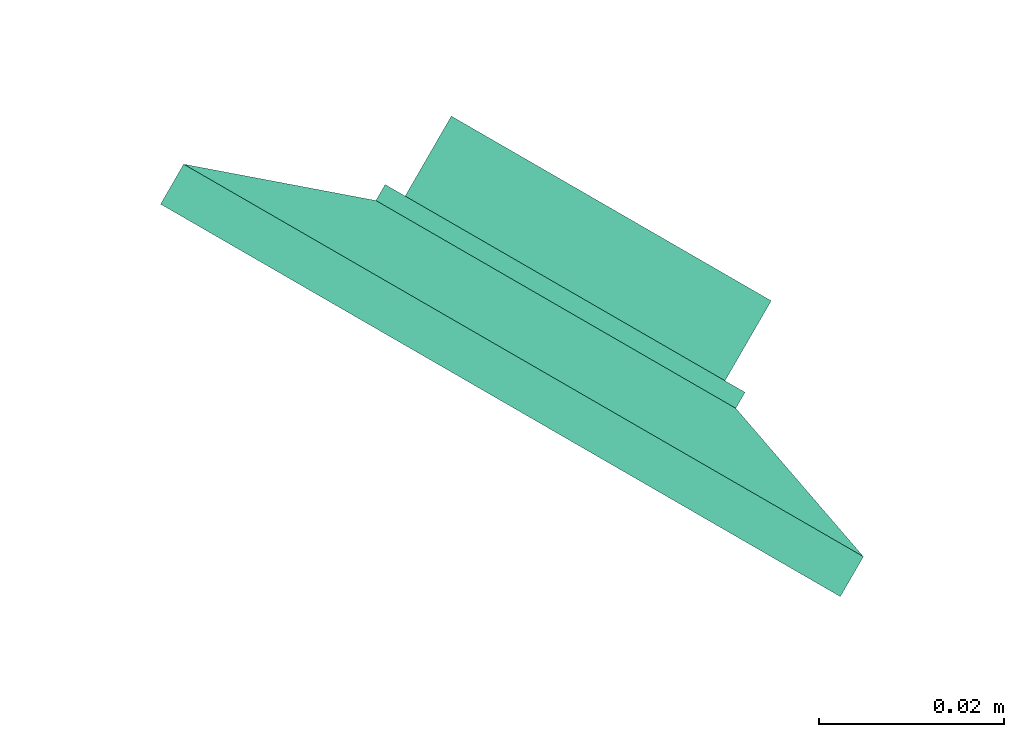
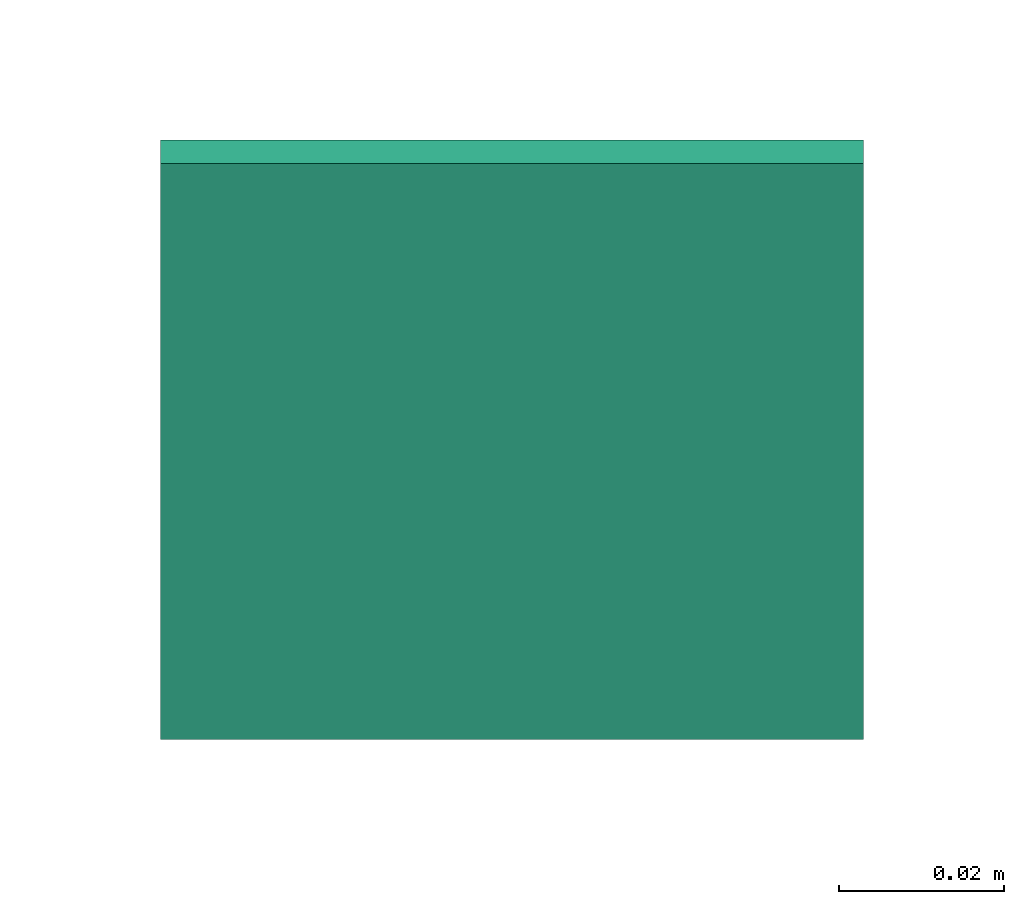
# One storey, part 5 of 24: 1 flow controller.
"""IFC2X3 building model written with IfcOpenShell, lengths in millimetres."""

from ifc_helpers import new_model, entity, si_unit, converted_unit, derived_unit, direction, frame, origin_with_axes, place, context, subcontext, project, spatial, open_shell, surface_model, source, transform, mapped, type_object, element, save


model = new_model("IFC2X3")

# Units and contexts
model_context = context("Model", 3, precision=0.01, world=frame((0.0, 4.29681676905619e-09, 0.0)), true_north=direction((4.01073788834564e-13, 1.0)))
plan_context = context("Plan", 3, precision=0.01, world=frame((0.0, 4.29681676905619e-09, 0.0)), true_north=direction((4.01073788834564e-13, 1.0)))
body_context = subcontext(model_context, "Body", "Model", "MODEL_VIEW")
ifc_project = project(units=[converted_unit("PLANEANGLEUNIT", "DEGREE", entity("IfcPositiveLengthMeasure", 0.0174532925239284), si_unit("PLANEANGLEUNIT", "RADIAN"), dimensions=[0, 0, 0, 0, 0, 0, 0]), si_unit("AREAUNIT", "SQUARE_METRE"), si_unit("LENGTHUNIT", "METRE", prefix="MILLI"), si_unit("MASSUNIT", "GRAM", prefix="KILO"), si_unit("POWERUNIT", "WATT"), si_unit("PRESSUREUNIT", "PASCAL"), si_unit("FORCEUNIT", "NEWTON", prefix="KILO"), si_unit("ELECTRICVOLTAGEUNIT", "VOLT"), si_unit("ELECTRICCURRENTUNIT", "AMPERE"), si_unit("THERMODYNAMICTEMPERATUREUNIT", "DEGREE_CELSIUS"), si_unit("TIMEUNIT", "SECOND"), si_unit("VOLUMEUNIT", "CUBIC_METRE"), derived_unit("LINEARVELOCITYUNIT", [(si_unit("LENGTHUNIT", "METRE"), 1), (si_unit("TIMEUNIT", "SECOND"), -1)]), derived_unit("VOLUMETRICFLOWRATEUNIT", [(si_unit("VOLUMEUNIT", "CUBIC_METRE"), 1), (si_unit("TIMEUNIT", "SECOND"), -1)]), derived_unit("THERMALTRANSMITTANCEUNIT", [(si_unit("POWERUNIT", "WATT"), 1), (si_unit("THERMODYNAMICTEMPERATUREUNIT", "KELVIN"), -1), (si_unit("AREAUNIT", "SQUARE_METRE"), -1)]), derived_unit("SOUNDPRESSUREUNIT", [(si_unit("PRESSUREUNIT", "PASCAL"), 1)])], contexts=[model_context, plan_context])

# Site, building, storey
site_placement = place(None, frame((0.0, -4.29681676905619e-09, 0.0), z_axis=(0.0, 0.0, 1.0), x_axis=(1.0, 0.0, 0.0)))
site = spatial("IfcSite", under=ifc_project, at=site_placement, Name="ENGM", CompositionType="ELEMENT")
building_placement = place(site_placement, frame((0.0, 4.29681676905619e-09, 0.0), z_axis=(0.0, 0.0, 1.0), x_axis=(1.0, 0.0, 0.0)))
building = spatial("IfcBuilding", under=site, at=building_placement, Name="TH", CompositionType="ELEMENT")
storey_placement = place(building_placement, frame((0.0, 0.0, 210200.0), z_axis=(0.0, 0.0, 1.0), x_axis=(1.0, 0.0, 0.0)))
storey = spatial("IfcBuildingStorey", under=building, at=storey_placement, Name="Nivå F - 0,7 m", CompositionType="ELEMENT", Elevation=210200.0)

# Flow controller
switching_device_type = type_object("IfcSwitchingDeviceType", Name="Light dimmer", PredefinedType="NOTDEFINED")
shared_shape = source(origin_with_axes(), body_context, "Body", "SurfaceModel", [
    surface_model("IfcShellBasedSurfaceModel", [(42.5, 0.0, 42.5), (-42.5, 0.0, 42.5), (-42.5, 0.0, -42.5), (42.5, 0.0, -42.5), (-42.5, 5.0, 42.5), (42.5, 5.0, 42.5), (42.5, 5.0, -42.5), (-42.5, 5.0, -42.5), (-5.17638, 24.0, -19.31852), (-10.0, 24.0, -17.32051), (-14.14214, 24.0, -14.14214), (-17.32051, 24.0, -10.0), (-19.31852, 24.0, -5.17638), (-20.0, 24.0, 0.0), (20.0, 24.0, 0.0), (5.17638, 24.0, -19.31852), (19.31852, 24.0, -5.17638), (10.0, 24.0, -17.32051), (0.0, 24.0, -20.0), (14.14214, 24.0, -14.14214), (17.32051, 24.0, -10.0), (-19.31852, 24.0, 5.17638), (-17.32051, 24.0, 10.0), (-14.14214, 24.0, 14.14214), (-10.0, 24.0, 17.32051), (-5.17638, 24.0, 19.31852), (0.0, 24.0, 20.0), (19.31852, 24.0, 5.17638), (14.14214, 24.0, 14.14214), (17.32051, 24.0, 10.0), (10.0, 24.0, 17.32051), (5.17638, 24.0, 19.31852), (0.0, 14.0, 20.0), (-5.17638, 14.0, 19.31852), (-10.0, 14.0, 17.32051), (10.0, 14.0, 17.32051), (-14.14214, 14.0, 14.14214), (-17.32051, 14.0, 10.0), (-19.31852, 14.0, 5.17638), (19.31852, 14.0, 5.17638), (14.14214, 14.0, 14.14214), (5.17638, 14.0, 19.31852), (17.32051, 14.0, 10.0), (20.0, 14.0, 0.0), (-20.0, 14.0, 0.0), (-19.31852, 14.0, -5.17638), (-17.32051, 14.0, -10.0), (-5.17638, 14.0, -19.31852), (-14.14214, 14.0, -14.14214), (-10.0, 14.0, -17.32051), (5.17638, 14.0, -19.31852), (19.31852, 14.0, -5.17638), (14.14214, 14.0, -14.14214), (17.32051, 14.0, -10.0), (10.0, 14.0, -17.32051), (0.0, 14.0, -20.0), (22.5, 14.0, 22.5), (22.5, 14.0, -22.5), (-22.5, 14.0, -22.5), (-22.5, 14.0, 22.5), (-22.5, 12.0, 22.5), (-22.5, 12.0, -22.5), (22.5, 12.0, -22.5), (22.5, 12.0, 22.5)], [open_shell([[[0, 1, 2]], [[2, 3, 0]], [[4, 5, 6]], [[6, 7, 4]], [[1, 0, 5]], [[5, 4, 1]], [[3, 2, 7]], [[7, 6, 3]], [[8, 9, 10]], [[8, 10, 11]], [[11, 12, 13]], [[11, 13, 8]], [[14, 15, 8]], [[15, 16, 17]], [[15, 18, 8]], [[19, 16, 20]], [[16, 19, 17]], [[15, 14, 16]], [[8, 13, 21]], [[21, 22, 23]], [[21, 23, 24]], [[24, 25, 26]], [[21, 24, 14]], [[27, 24, 26]], [[27, 28, 29]], [[27, 14, 24]], [[27, 30, 28]], [[26, 30, 27]], [[26, 31, 30]], [[21, 14, 8]], [[32, 33, 34]], [[35, 32, 34]], [[36, 37, 38]], [[35, 34, 36]], [[35, 36, 38]], [[35, 39, 40]], [[35, 41, 32]], [[40, 39, 42]], [[39, 35, 43]], [[38, 43, 35]], [[38, 44, 43]], [[44, 45, 46]], [[44, 46, 47]], [[48, 49, 47]], [[48, 47, 46]], [[47, 50, 43]], [[51, 52, 53]], [[52, 51, 54]], [[51, 50, 54]], [[43, 50, 51]], [[47, 55, 50]], [[43, 44, 47]], [[51, 16, 43]], [[53, 20, 51]], [[17, 52, 54]], [[53, 52, 19]], [[15, 54, 50]], [[51, 20, 16]], [[16, 14, 43]], [[15, 17, 54]], [[19, 52, 17]], [[19, 20, 53]], [[18, 15, 50]], [[50, 55, 18]], [[47, 8, 55]], [[49, 9, 47]], [[11, 48, 46]], [[49, 48, 10]], [[12, 46, 45]], [[49, 10, 9]], [[9, 8, 47]], [[13, 12, 45]], [[11, 46, 12]], [[11, 10, 48]], [[44, 13, 45]], [[55, 8, 18]], [[38, 21, 44]], [[37, 22, 38]], [[24, 36, 34]], [[37, 36, 23]], [[25, 34, 33]], [[38, 22, 21]], [[21, 13, 44]], [[25, 24, 34]], [[23, 36, 24]], [[23, 22, 37]], [[26, 25, 33]], [[33, 32, 26]], [[41, 31, 32]], [[35, 30, 41]], [[29, 40, 42]], [[35, 40, 28]], [[27, 42, 39]], [[35, 28, 30]], [[30, 31, 41]], [[14, 27, 39]], [[29, 42, 27]], [[29, 28, 40]], [[43, 14, 39]], [[32, 31, 26]], [[56, 57, 58]], [[58, 59, 56]], [[60, 61, 62]], [[62, 63, 60]], [[58, 57, 62]], [[62, 61, 58]], [[59, 58, 61]], [[61, 60, 59]], [[56, 59, 60]], [[60, 63, 56]], [[57, 56, 63]], [[63, 62, 57]], [[63, 62, 61]], [[61, 60, 63]], [[6, 5, 4]], [[4, 7, 6]], [[62, 6, 7]], [[7, 61, 62]], [[61, 7, 60]], [[4, 60, 7]], [[60, 4, 63]], [[5, 63, 4]], [[63, 5, 6]], [[6, 62, 63]], [[0, 3, 5]], [[6, 5, 3]], [[2, 1, 7]], [[4, 7, 1]]])]),
])
flow_controller_placement = place(storey_placement, frame((900289.9751, 478861.07197, 1000.0), z_axis=(0.0, 0.0, 1.0), x_axis=(0.866025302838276, -0.500000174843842, 0.0)))
element("IfcFlowController", 1, at=flow_controller_placement, inside=storey, type_object=switching_device_type, Name="Light dimmer", context=body_context, shape_type="MappedRepresentation", body=[
    mapped(shared_shape, transform((0.0, 0.0, 0.0), scale=1.0)),
])

save(model, "model.ifc")
